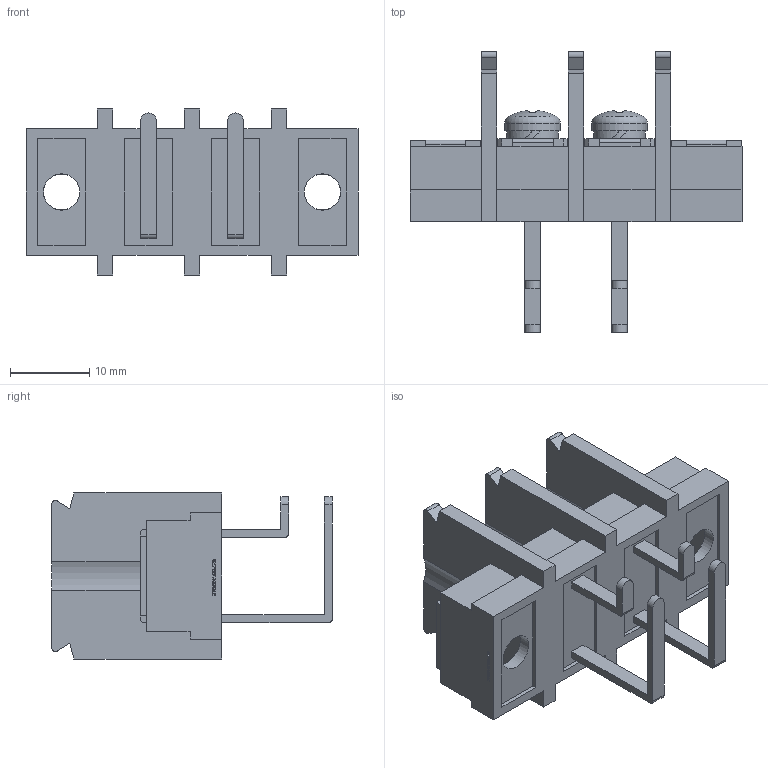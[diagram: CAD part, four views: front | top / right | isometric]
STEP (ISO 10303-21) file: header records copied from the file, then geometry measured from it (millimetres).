
FILE_DESCRIPTION(/* description */ ('Alibre Inc.'),/* implementation_level */ '2;1');
FILE_NAME(/* name */ 'export0',/* time_stamp */ '2015-12-02T12:57:05+09:00',/* author */ (''),/* organization */ (''),/* preprocessor_version */ 'ST-DEVELOPER v14',/* originating_system */ 'Alibre',/* authorisation */ '');
FILE_SCHEMA (('CONFIG_CONTROL_DESIGN'));
Length unit declared in the file: centimetre
Products named in the file (1): ID_1
Bounding box: 42 x 35.5 x 21 mm (x, y, z)
Volume: 6398.5 mm3; surface area: 7361 mm2
Topology: 1 solids, 17 shells, 688 faces, 1866 edges, 1238 vertices
Faces by surface type: plane 530, bspline 104, cylinder 40, cone 10, sphere 2, torus 2
Full cylindrical faces by diameter (mm): 4 x2, 4.55 x2, 4.6 x2, 6.5 x2, 7 x2
Entity records: 20755 total; most frequent: CARTESIAN_POINT 4704, ORIENTED_EDGE 3704, DIRECTION 2331, EDGE_CURVE 1852, VECTOR 1457, LINE 1457, VERTEX_POINT 1236, EDGE_LOOP 758
